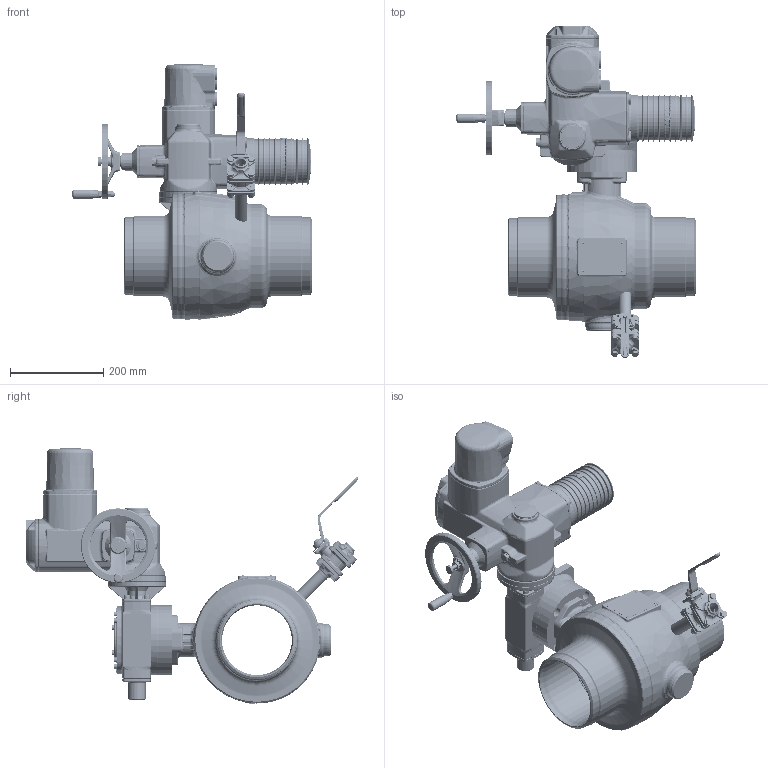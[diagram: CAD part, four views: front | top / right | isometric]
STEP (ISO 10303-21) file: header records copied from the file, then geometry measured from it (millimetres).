
FILE_DESCRIPTION((''),'2;1');
FILE_NAME('ASM0001_ASM','2026-01-28T10:18:20',('schwaba'),('KLINGER'),'CREO PARAMETRIC BY PTC INC, 2023014','CREO PARAMETRIC BY PTC INC, 2023014','');
FILE_SCHEMA(('CONFIG_CONTROL_DESIGN'));
Length unit declared in the file: millimetre
Products named in the file (7): KHSVI_150_FG_FR_WE_F12_ENTL; GS63_3_F12_51; AUFSATZFLANSCH_F10_GS63-GS80; ZYLSCHR-ISKT--M8X25---8_8; GS63_3_51_F12---------------F10_ASM; SA07_2-6_F10_STD; ASM0001_ASM
Assembly tree (9 placements, depth 3):
  ASM0001_ASM
    KHSVI_150_FG_FR_WE_F12_ENTL
    GS63_3_51_F12---------------F10_ASM
      GS63_3_F12_51
      AUFSATZFLANSCH_F10_GS63-GS80
      ZYLSCHR-ISKT--M8X25---8_8  x4
    SA07_2-6_F10_STD
Bounding box: 513.1 x 712.7 x 549.3 mm (x, y, z)
Volume: 15651779.5 mm3; surface area: 1805863.5 mm2
Topology: 8 solids, 15 shells, 5893 faces, 14045 edges, 8237 vertices
Faces by surface type: plane 1461, cylinder 1374, bspline 1268, torus 893, cone 680, sphere 131, extrusion 63, revolution 23
Entity records: 339535 total; most frequent: CARTESIAN_POINT 214965, ORIENTED_EDGE 27454, DIRECTION 24020, EDGE_CURVE 13730, AXIS2_PLACEMENT_3D 10078, VERTEX_POINT 8131, EDGE_LOOP 6141, FACE_OUTER_BOUND 5820
